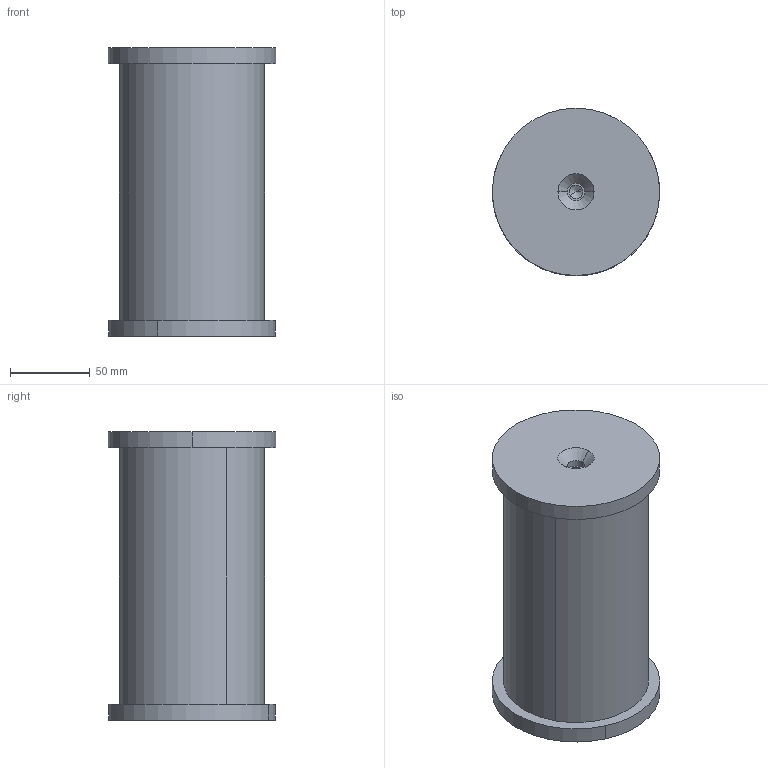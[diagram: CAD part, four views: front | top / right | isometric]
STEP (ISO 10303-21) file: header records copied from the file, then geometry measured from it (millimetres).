
FILE_DESCRIPTION (( 'STEP AP203' ), '1' );
FILE_NAME ('Bolzen Scheibe A M85.STEP', '2018-02-21T14:27:28', ( 'install' ), ( 'Hewlett-Packard Company' ), 'SwSTEP 2.0', 'SolidWorks 2017', '' );
FILE_SCHEMA (( 'CONFIG_CONTROL_DESIGN' ));
Length unit declared in the file: millimetre
Products named in the file (3): Bolzen ScheibeVarA_generisch_M85; Bolzen Scheibe A M85; Scheibe_M85
Assembly tree (3 placements, depth 2):
  Bolzen Scheibe A M85
    Scheibe_M85  x2
    Bolzen ScheibeVarA_generisch_M85
Bounding box: 105 x 105 x 181 mm (x, y, z)
Volume: 1213834.8 mm3; surface area: 101802 mm2
Topology: 3 solids, 3 shells, 28 faces, 58 edges, 34 vertices
Faces by surface type: cylinder 14, cone 8, plane 6
Entity records: 853 total; most frequent: DIRECTION 112, CARTESIAN_POINT 88, ORIENTED_EDGE 76, AXIS2_PLACEMENT_3D 48, EDGE_CURVE 38, PERSON_AND_ORGANIZATION 27, VERTEX_POINT 24, EDGE_LOOP 24
